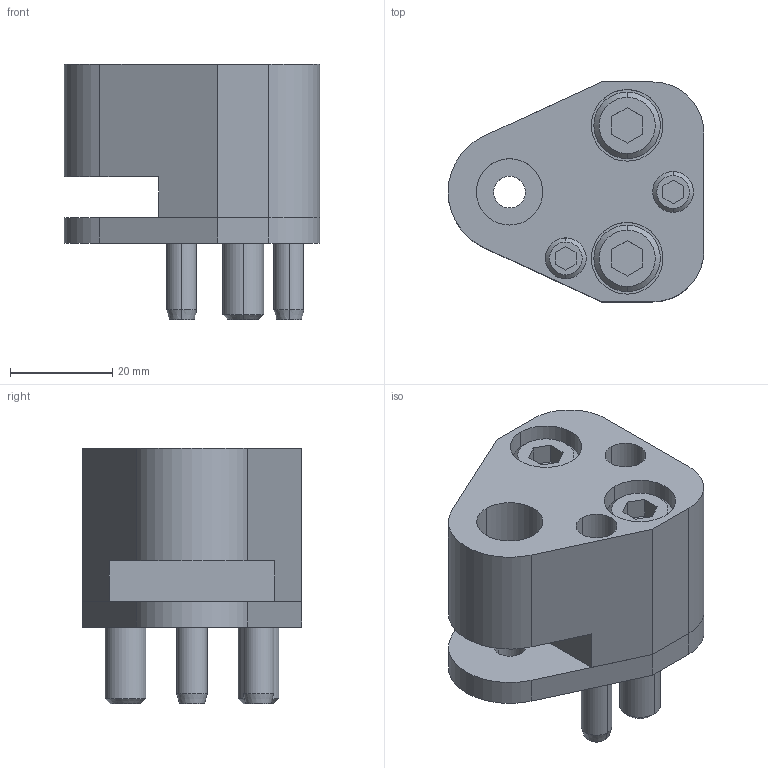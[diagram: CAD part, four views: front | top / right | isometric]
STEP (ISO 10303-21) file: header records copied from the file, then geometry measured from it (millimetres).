
FILE_DESCRIPTION(/* description */ (''),/* implementation_level */ '2;1');
FILE_NAME(/* name */ '3d_ap-fp13_02882_r00.stp',/* time_stamp */ '2011-01-10T14:17:46+09:00',/* author */ ('MISUMI'),/* organization */ (''),/* preprocessor_version */ 'ST-DEVELOPER v11',/* originating_system */ 'UGS - NX 5.0',/* authorisation */ '');
FILE_SCHEMA (('CONFIG_CONTROL_DESIGN'));
Length unit declared in the file: millimetre
Products named in the file (1): 3d_ap-fp13_02882_r00
Bounding box: 50 x 43 x 50 mm (x, y, z)
Volume: 50806.3 mm3; surface area: 20945.7 mm2
Topology: 8 solids, 8 shells, 154 faces, 350 edges, 225 vertices
Faces by surface type: plane 68, cylinder 60, cone 26
Entity records: 4496 total; most frequent: DIRECTION 802, CARTESIAN_POINT 783, ORIENTED_EDGE 700, EDGE_CURVE 350, AXIS2_PLACEMENT_3D 302, VERTEX_POINT 225, LINE 198, VECTOR 198
